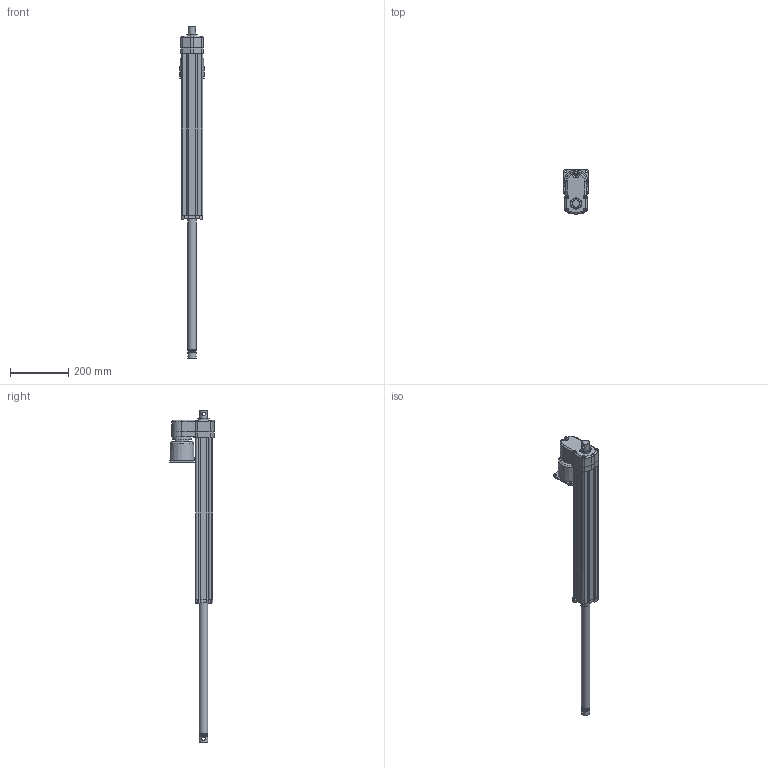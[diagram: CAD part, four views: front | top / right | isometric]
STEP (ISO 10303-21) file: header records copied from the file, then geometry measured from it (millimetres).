
FILE_DESCRIPTION (( 'STEP AP214' ), '1' );
FILE_NAME ('FA14-05A65M45M0_tollo.step', '2020-04-15T18:21:51', ( '' ), ( '' ), 'SwSTEP 2.0', 'SolidWorks 2010', '' );
FILE_SCHEMA (( 'AUTOMOTIVE_DESIGN' ));
Length unit declared in the file: millimetre
Products named in the file (9): Electrak-FA14-House-Acme-Tollo; Electrak-FA14-Rear-Tollo; Electrak-FA14-Motor-Tollo; Electrak-FA14-Tube-Acme-Tollo; Electrak-FA14-Plate-Tollo; Screw-MRT-TT-M5; Screw-M6S-M5; Electrak-FA14-Rod-Acme-Tollo; FA14-05A65M45M0_tollo
Assembly tree (15 placements, depth 3):
  FA14-05A65M45M0_tollo
    Electrak-FA14-Rod-Acme-Tollo
    Electrak-FA14-House-Acme-Tollo
      Screw-M6S-M5  x8
      Screw-MRT-TT-M5
      Electrak-FA14-Tube-Acme-Tollo
      Electrak-FA14-Motor-Tollo
      Electrak-FA14-Plate-Tollo
      Electrak-FA14-Rear-Tollo
Bounding box: 85 x 154.18 x 1141.1 mm (x, y, z)
Volume: 1660384.2 mm3; surface area: 526918.6 mm2
Topology: 14 solids, 14 shells, 509 faces, 1279 edges, 826 vertices
Faces by surface type: plane 234, cylinder 198, cone 57, torus 18, bspline 2
Full cylindrical faces by diameter (mm): 4.126 x8, 4.8 x6, 5 x8, 5.6 x4, 6 x1, 7 x4, 7.878 x8, 9.5 x1, 11.741 x1, 12.2 x2, 25.4 x1, 28.5 x4, 34.5 x1, 47.625 x1, 50 x1, 65 x1, 80 x1
Entity records: 11671 total; most frequent: CARTESIAN_POINT 2704, DIRECTION 1857, ORIENTED_EDGE 1700, EDGE_CURVE 850, AXIS2_PLACEMENT_3D 686, VERTEX_POINT 577, VECTOR 485, LINE 485
